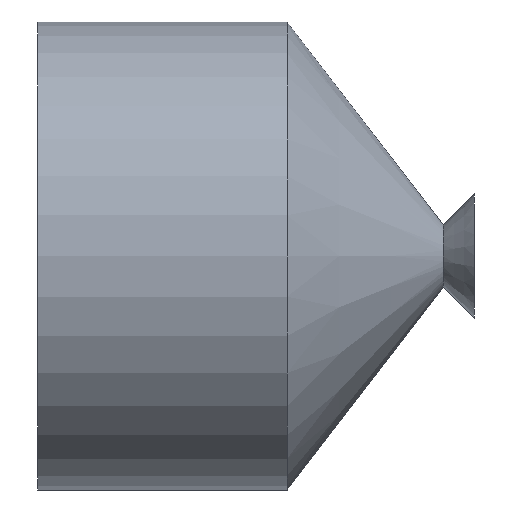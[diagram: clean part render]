
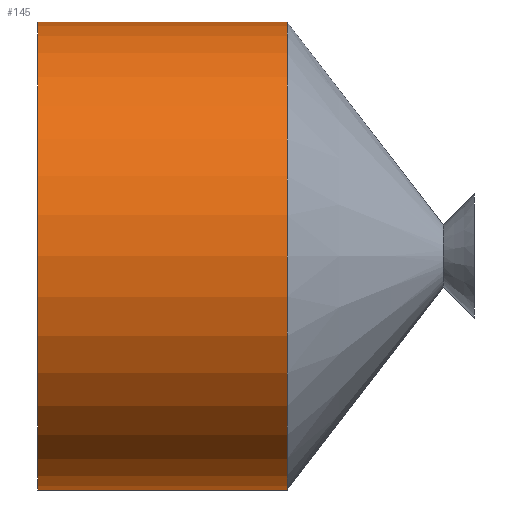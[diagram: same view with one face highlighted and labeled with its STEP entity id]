
A CAD part, left-side view. The second image highlights one B-rep face of the part: STEP entity #145.
In plain terms, the highlighted cylindrical face has radius 7.5 mm (diameter 15 mm), a partial arc.
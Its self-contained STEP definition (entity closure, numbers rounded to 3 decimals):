
#6 = VERTEX_POINT ( 'NONE', #411 ) ;
#19 = CARTESIAN_POINT ( 'NONE',  ( 0., 6., 0. ) ) ;
#24 = EDGE_LOOP ( 'NONE', ( #84, #81, #248, #364 ) ) ;
#29 = CARTESIAN_POINT ( 'NONE',  ( 0., 0., 0. ) ) ;
#40 = CIRCLE ( 'NONE', #355, 7.5 ) ;
#70 = DIRECTION ( 'NONE',  ( 0., 0., -1. ) ) ;
#81 = ORIENTED_EDGE ( 'NONE', *, *, #238, .T. ) ;
#84 = ORIENTED_EDGE ( 'NONE', *, *, #487, .F. ) ;
#104 = VERTEX_POINT ( 'NONE', #329 ) ;
#137 = DIRECTION ( 'NONE',  ( 0., -1., 0. ) ) ;
#145 = ADVANCED_FACE ( 'NONE', ( #210 ), #184, .T. ) ;
#157 = EDGE_CURVE ( 'NONE', #6, #205, #170, .T. ) ;
#164 = CIRCLE ( 'NONE', #361, 7.5 ) ;
#170 = LINE ( 'NONE', #229, #507 ) ;
#184 = CYLINDRICAL_SURFACE ( 'NONE', #282, 7.5 ) ;
#196 = CARTESIAN_POINT ( 'NONE',  ( 0., 6., 7.5 ) ) ;
#199 = CARTESIAN_POINT ( 'NONE',  ( 0., 14., 0. ) ) ;
#205 = VERTEX_POINT ( 'NONE', #314 ) ;
#210 = FACE_OUTER_BOUND ( 'NONE', #24, .T. ) ;
#220 = DIRECTION ( 'NONE',  ( 0., 0., -1. ) ) ;
#229 = CARTESIAN_POINT ( 'NONE',  ( 0., 0., -7.5 ) ) ;
#238 = EDGE_CURVE ( 'NONE', #104, #6, #164, .T. ) ;
#239 = DIRECTION ( 'NONE',  ( 0., 0., -1. ) ) ;
#246 = LINE ( 'NONE', #501, #351 ) ;
#248 = ORIENTED_EDGE ( 'NONE', *, *, #157, .T. ) ;
#282 = AXIS2_PLACEMENT_3D ( 'NONE', #29, #382, #70 ) ;
#314 = CARTESIAN_POINT ( 'NONE',  ( 0., 6., -7.5 ) ) ;
#329 = CARTESIAN_POINT ( 'NONE',  ( 0., 14., 7.5 ) ) ;
#333 = VERTEX_POINT ( 'NONE', #196 ) ;
#351 = VECTOR ( 'NONE', #137, 1000. ) ;
#355 = AXIS2_PLACEMENT_3D ( 'NONE', #19, #500, #220 ) ;
#361 = AXIS2_PLACEMENT_3D ( 'NONE', #199, #481, #239 ) ;
#364 = ORIENTED_EDGE ( 'NONE', *, *, #490, .F. ) ;
#382 = DIRECTION ( 'NONE',  ( 0., -1., 0. ) ) ;
#411 = CARTESIAN_POINT ( 'NONE',  ( 0., 14., -7.5 ) ) ;
#470 = DIRECTION ( 'NONE',  ( 0., -1., 0. ) ) ;
#481 = DIRECTION ( 'NONE',  ( 0., -1., 0. ) ) ;
#487 = EDGE_CURVE ( 'NONE', #104, #333, #246, .T. ) ;
#490 = EDGE_CURVE ( 'NONE', #333, #205, #40, .T. ) ;
#500 = DIRECTION ( 'NONE',  ( 0., -1., 0. ) ) ;
#501 = CARTESIAN_POINT ( 'NONE',  ( 0., 0., 7.5 ) ) ;
#507 = VECTOR ( 'NONE', #470, 1000. ) ;
